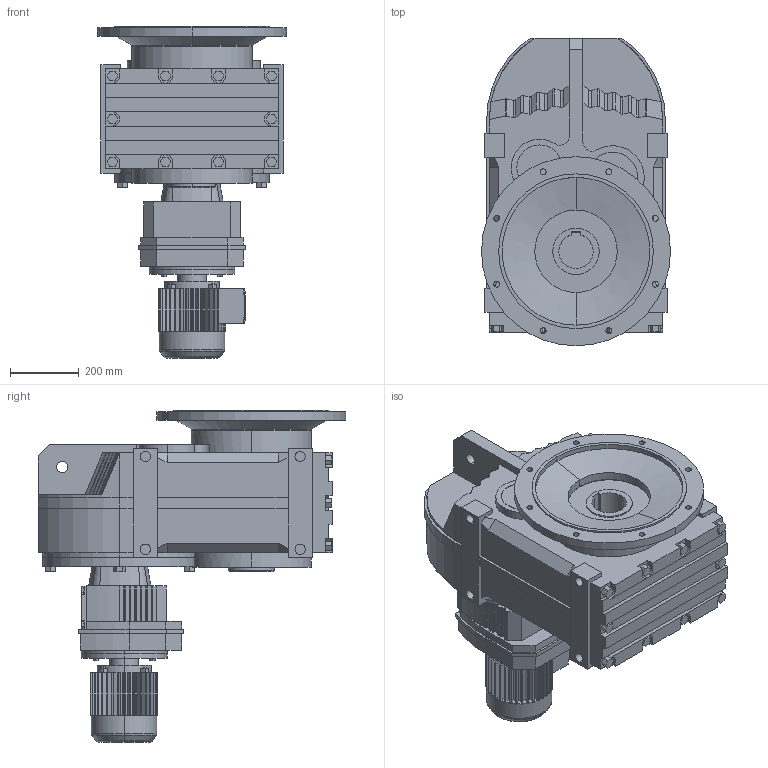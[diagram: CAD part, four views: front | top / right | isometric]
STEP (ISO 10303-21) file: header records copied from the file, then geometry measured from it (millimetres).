
FILE_DESCRIPTION(('Open CASCADE Model'),'2;1');
FILE_NAME('Open CASCADE Shape Model','2021-07-24T11:24:42',('Author'),( 'Open CASCADE'),'Open CASCADE STEP processor 6.3','Open CASCADE 6.3' ,'Unknown');
FILE_SCHEMA(('AUTOMOTIVE_DESIGN_CC2 { 1 2 10303 214 -1 1 5 4 }'));
Length unit declared in the file: millimetre
Products named in the file (6): 1_FAF127R87DT90; FAZ27‵157_127.step; 萇儂_250-DT90-257-342-197-154.step; R_127_87.step; す瑩諾陑粣F_127.step; 楊擘F_127.step
Assembly tree (5 placements, depth 2):
  1_FAF127R87DT90
    FAZ27‵157_127.step
    萇儂_250-DT90-257-342-197-154.step
    R_127_87.step
    す瑩諾陑粣F_127.step
    楊擘F_127.step
Bounding box: 550 x 895 x 966 mm (x, y, z)
Volume: 154779050.9 mm3; surface area: 4061439 mm2
Topology: 5 solids, 5 shells, 1050 faces, 2775 edges, 1816 vertices
Faces by surface type: plane 760, cylinder 256, bspline 16, cone 14, torus 4
Entity records: 70385 total; most frequent: CARTESIAN_POINT 16753, DIRECTION 9436, ORIENTED_EDGE 5550, PCURVE 5550, DEFINITIONAL_REPRESENTATION 5550, LINE 5519, VECTOR 5519, EDGE_CURVE 2775
